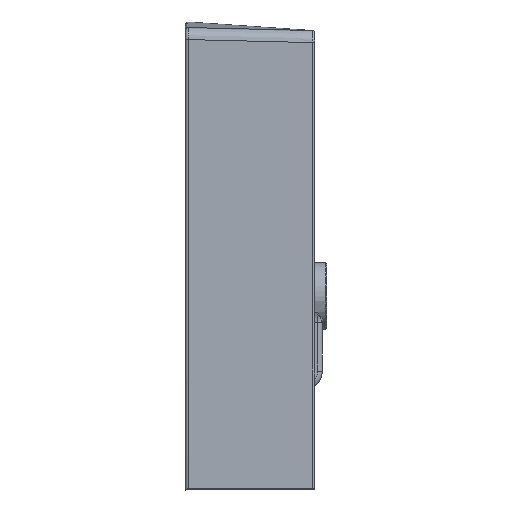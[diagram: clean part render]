
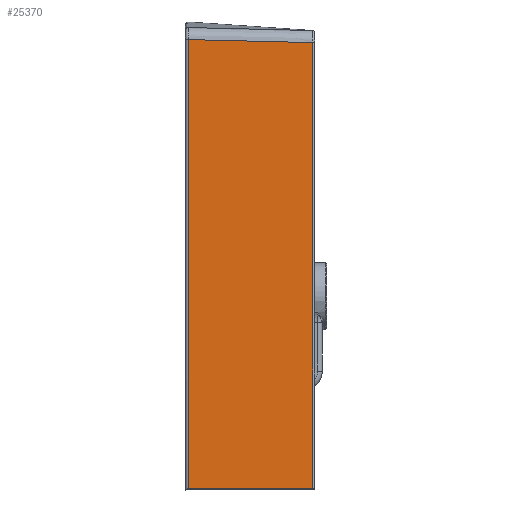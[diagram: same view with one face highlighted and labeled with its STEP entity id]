
A CAD part, left-side view. The second image highlights one B-rep face of the part: STEP entity #25370.
In plain terms, the highlighted planar face has unit normal (-1, -0.021, -0.003).
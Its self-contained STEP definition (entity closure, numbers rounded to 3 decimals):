
#46 = DIRECTION ( 'NONE',  ( 0.021, -1., 0. ) ) ;
#406 = CARTESIAN_POINT ( 'NONE',  ( -347.006, -140., -247.997 ) ) ;
#1168 = ORIENTED_EDGE ( 'NONE', *, *, #15608, .T. ) ;
#1516 = VERTEX_POINT ( 'NONE', #15410 ) ;
#3936 = CARTESIAN_POINT ( 'NONE',  ( -349.94, -3.064, -248.006 ) ) ;
#4328 = CARTESIAN_POINT ( 'NONE',  ( -348.717, -127.68, 234.373 ) ) ;
#4465 = ORIENTED_EDGE ( 'NONE', *, *, #20002, .T. ) ;
#5351 = CARTESIAN_POINT ( 'NONE',  ( -348.496, -137.943, 234.078 ) ) ;
#8068 = CARTESIAN_POINT ( 'NONE',  ( -350.72, -34.519, 236.615 ) ) ;
#8671 = PLANE ( 'NONE',  #30321 ) ;
#9216 = DIRECTION ( 'NONE',  ( -1., -0.021, -0.003 ) ) ;
#10521 = VECTOR ( 'NONE', #18728, 1000. ) ;
#10720 = EDGE_CURVE ( 'NONE', #1516, #21121, #30400, .T. ) ;
#11002 = CARTESIAN_POINT ( 'NONE',  ( -349.585, -87.337, 235.346 ) ) ;
#11955 = FACE_OUTER_BOUND ( 'NONE', #36128, .T. ) ;
#12306 = VECTOR ( 'NONE', #46, 1000. ) ;
#12394 = EDGE_CURVE ( 'NONE', #30168, #1516, #19977, .T. ) ;
#13567 = CARTESIAN_POINT ( 'NONE',  ( -350.215, -57.994, 236.051 ) ) ;
#14746 = VERTEX_POINT ( 'NONE', #34362 ) ;
#15410 = CARTESIAN_POINT ( 'NONE',  ( -347.05, -137.943, -247.997 ) ) ;
#15464 = CARTESIAN_POINT ( 'NONE',  ( -349.206, -104.943, 234.922 ) ) ;
#15608 = EDGE_CURVE ( 'NONE', #21121, #14746, #23780, .T. ) ;
#18728 = DIRECTION ( 'NONE',  ( 0.003, 0., -1. ) ) ;
#19977 = LINE ( 'NONE', #406, #12306 ) ;
#20002 = EDGE_CURVE ( 'NONE', #14746, #30168, #35007, .T. ) ;
#20973 = VECTOR ( 'NONE', #25459, 1000. ) ;
#21121 = VERTEX_POINT ( 'NONE', #32902 ) ;
#21291 = CARTESIAN_POINT ( 'NONE',  ( -349.94, -3.064, -248.006 ) ) ;
#21318 = CARTESIAN_POINT ( 'NONE',  ( -350.946, -24.034, 236.867 ) ) ;
#21993 = CARTESIAN_POINT ( 'NONE',  ( -348.496, -137.943, 234.126 ) ) ;
#22170 = CARTESIAN_POINT ( 'NONE',  ( -350.468, -46.256, 236.333 ) ) ;
#22578 = CARTESIAN_POINT ( 'NONE',  ( -347., -140., -249.991 ) ) ;
#23780 = B_SPLINE_CURVE_WITH_KNOTS ( 'NONE', 3,
 ( #21993, #35212, #4328, #25088, #15464, #11002, #26619, #13567, #22170, #8068, #21318, #32958, #35033 ),
 .UNSPECIFIED., .F., .F.,
 ( 4, 3, 3, 3, 4 ),
 ( 0.002, 0.017, 0.07, 0.106, 0.137 ),
 .UNSPECIFIED. ) ;
#25088 = CARTESIAN_POINT ( 'NONE',  ( -348.827, -122.549, 234.497 ) ) ;
#25138 = DIRECTION ( 'NONE',  ( -0.021, 1., 0. ) ) ;
#25370 = ADVANCED_FACE ( 'NONE', ( #11955 ), #8671, .T. ) ;
#25459 = DIRECTION ( 'NONE',  ( -0.003, 0., 1. ) ) ;
#25632 = ORIENTED_EDGE ( 'NONE', *, *, #10720, .T. ) ;
#26619 = CARTESIAN_POINT ( 'NONE',  ( -349.963, -69.731, 235.769 ) ) ;
#30168 = VERTEX_POINT ( 'NONE', #3936 ) ;
#30321 = AXIS2_PLACEMENT_3D ( 'NONE', #22578, #9216, #25138 ) ;
#30400 = LINE ( 'NONE', #5351, #20973 ) ;
#32902 = CARTESIAN_POINT ( 'NONE',  ( -348.496, -137.943, 234.126 ) ) ;
#32958 = CARTESIAN_POINT ( 'NONE',  ( -351.171, -13.549, 237.118 ) ) ;
#34362 = CARTESIAN_POINT ( 'NONE',  ( -351.396, -3.064, 237.37 ) ) ;
#34711 = ORIENTED_EDGE ( 'NONE', *, *, #12394, .T. ) ;
#35007 = LINE ( 'NONE', #21291, #10521 ) ;
#35033 = CARTESIAN_POINT ( 'NONE',  ( -351.396, -3.064, 237.37 ) ) ;
#35212 = CARTESIAN_POINT ( 'NONE',  ( -348.607, -132.812, 234.25 ) ) ;
#36128 = EDGE_LOOP ( 'NONE', ( #1168, #4465, #34711, #25632 ) ) ;
